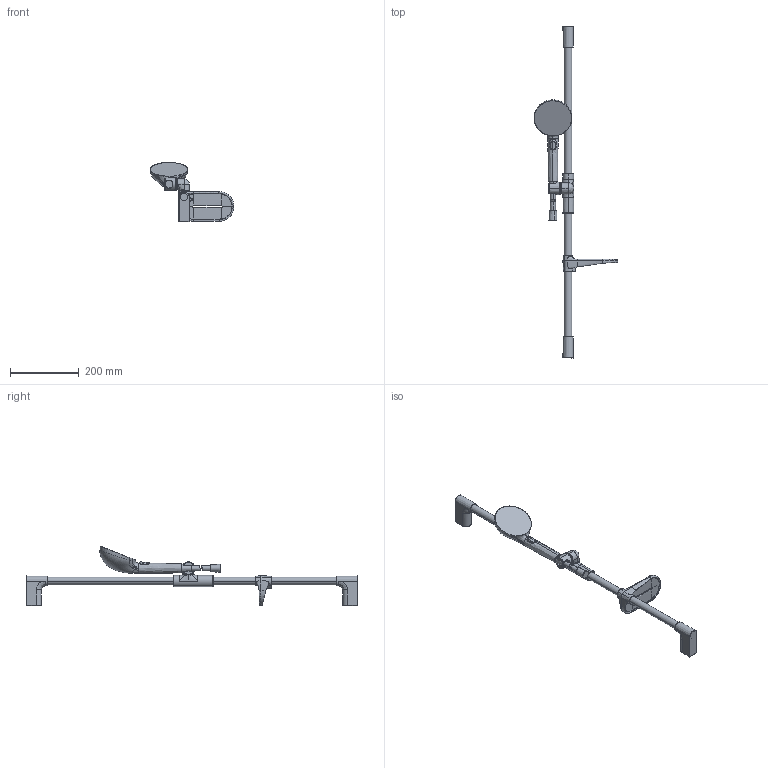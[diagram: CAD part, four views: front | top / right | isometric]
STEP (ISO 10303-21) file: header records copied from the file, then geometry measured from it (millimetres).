
FILE_DESCRIPTION (( 'STEP AP203' ), '1' );
FILE_NAME ('47150130(2024).STEP', '2024-04-10T07:38:10', ( '' ), ( '' ), 'SwSTEP 2.0', 'SolidWorks 2016', '' );
FILE_SCHEMA (( 'CONFIG_CONTROL_DESIGN' ));
Length unit declared in the file: millimetre
Products named in the file (1): 47150130(2024)
Bounding box: 243.96 x 967.42 x 172.17 mm (x, y, z)
Volume: 1289268.9 mm3; surface area: 207843.2 mm2
Topology: 11 solids, 11 shells, 398 faces, 938 edges, 562 vertices
Faces by surface type: bspline 257, plane 44, cylinder 35, cone 27, sphere 22, torus 13
Entity records: 55056 total; most frequent: CARTESIAN_POINT 47715, ORIENTED_EDGE 1874, DIRECTION 991, EDGE_CURVE 937, VERTEX_POINT 562, B_SPLINE_CURVE_WITH_KNOTS 474, AXIS2_PLACEMENT_3D 437, EDGE_LOOP 401
